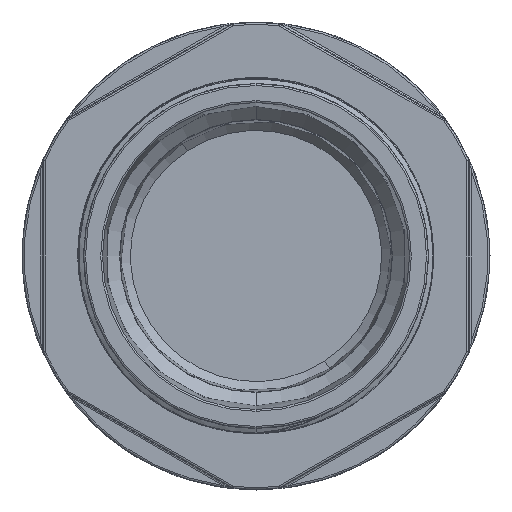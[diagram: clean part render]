
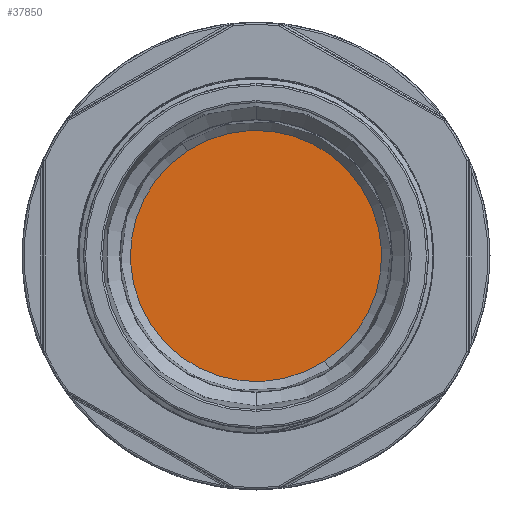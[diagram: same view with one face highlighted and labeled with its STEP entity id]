
A CAD part, front view. The second image highlights one B-rep face of the part: STEP entity #37850.
In plain terms, the highlighted planar face has unit normal (0, -1, 0).
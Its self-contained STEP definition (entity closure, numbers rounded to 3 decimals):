
#4179 = CARTESIAN_POINT ( 'NONE',  ( 0., 21., 0. ) ) ;
#4999 = VERTEX_POINT ( 'NONE', #34919 ) ;
#6732 = EDGE_LOOP ( 'NONE', ( #13776, #15400 ) ) ;
#10121 = CARTESIAN_POINT ( 'NONE',  ( 0., 21., -20.536 ) ) ;
#13776 = ORIENTED_EDGE ( 'NONE', *, *, #48596, .T. ) ;
#15350 = DIRECTION ( 'NONE',  ( 0., 0., -1. ) ) ;
#15400 = ORIENTED_EDGE ( 'NONE', *, *, #26587, .T. ) ;
#19794 = DIRECTION ( 'NONE',  ( 0., -1., 0. ) ) ;
#21418 = PLANE ( 'NONE',  #34410 ) ;
#21573 = DIRECTION ( 'NONE',  ( 0., 0., -1. ) ) ;
#25523 = CARTESIAN_POINT ( 'NONE',  ( 0., 21., 0. ) ) ;
#26587 = EDGE_CURVE ( 'NONE', #4999, #43638, #30313, .T. ) ;
#30313 = CIRCLE ( 'NONE', #39836, 20.536 ) ;
#34410 = AXIS2_PLACEMENT_3D ( 'NONE', #37261, #44454, #43981 ) ;
#34919 = CARTESIAN_POINT ( 'NONE',  ( 0., 21., 20.536 ) ) ;
#36301 = FACE_OUTER_BOUND ( 'NONE', #6732, .T. ) ;
#37261 = CARTESIAN_POINT ( 'NONE',  ( 0., 21., 0. ) ) ;
#37850 = ADVANCED_FACE ( 'NONE', ( #36301 ), #21418, .F. ) ;
#39836 = AXIS2_PLACEMENT_3D ( 'NONE', #4179, #19794, #15350 ) ;
#40659 = DIRECTION ( 'NONE',  ( 0., -1., 0. ) ) ;
#41407 = CIRCLE ( 'NONE', #47734, 20.536 ) ;
#43638 = VERTEX_POINT ( 'NONE', #10121 ) ;
#43981 = DIRECTION ( 'NONE',  ( 0., 0., 1. ) ) ;
#44454 = DIRECTION ( 'NONE',  ( 0., 1., 0. ) ) ;
#47734 = AXIS2_PLACEMENT_3D ( 'NONE', #25523, #40659, #21573 ) ;
#48596 = EDGE_CURVE ( 'NONE', #43638, #4999, #41407, .T. ) ;
